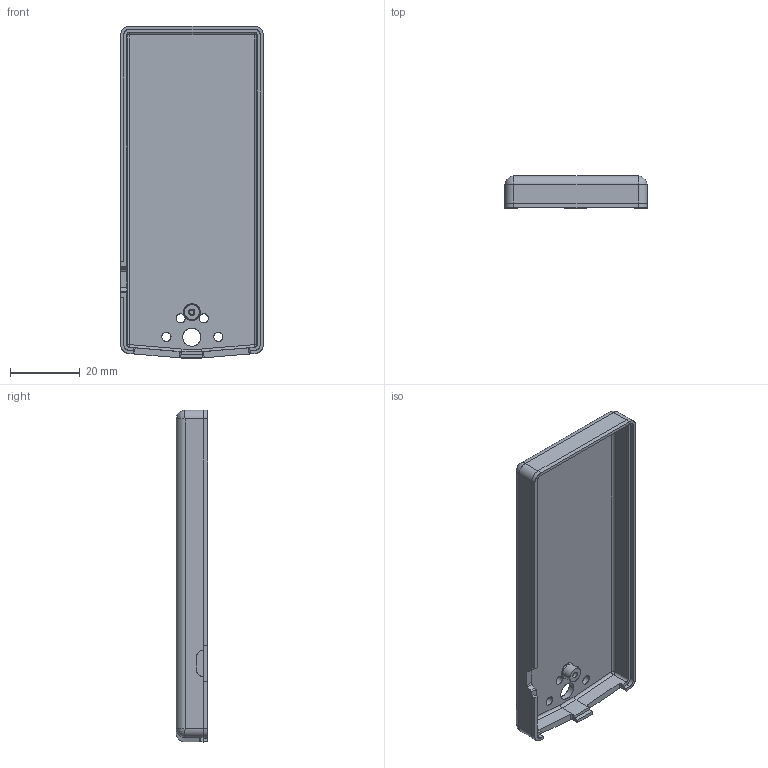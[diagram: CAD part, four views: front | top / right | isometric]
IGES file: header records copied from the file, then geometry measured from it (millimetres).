
Start section: SolidWorks IGES file using analytic representation for surfaces
Global section: file name: C:\Users\ALIENWARE\Documents\PowerBank\Case149Top.IGS; native system: SolidWorks 2014; preprocessor: SolidWorks 2014; author: ALIENWARE; date: 150203.113624; units: inch
Bounding box: 40.98 x 9.06 x 95.45 mm (x, y, z)
Surface area: 11519 mm2 (no closed solid volume)
Topology: 0 solids, 0 shells, 119 faces, 1225 edges, 1225 vertices
Faces by surface type: bspline 61, revolution 58
